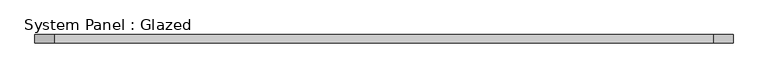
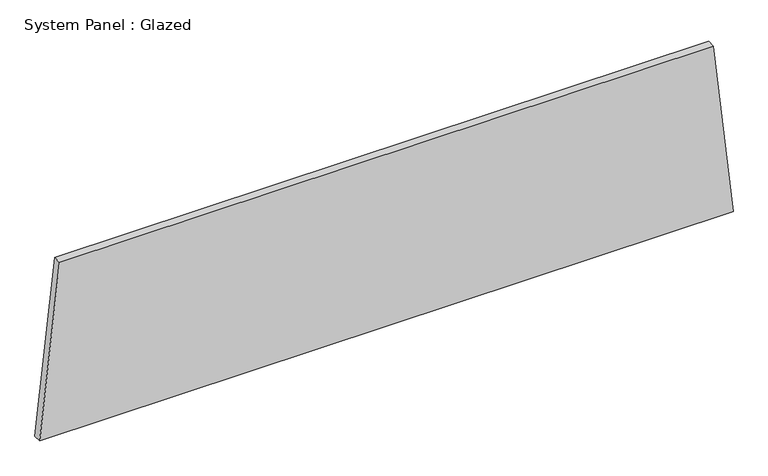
"""IFC4 building model written with IfcOpenShell, lengths in millimetres: plate geometry, System Panel : Glazed."""

from ifc_helpers import new_model, si_unit, frame, origin, place, context, project, spatial, polyline, outline, extrude, source, transform, mapped, element, save


def system_panel_glazed_8ac96967(model_context):
    return source(origin(), model_context, "Body", "SweptSolid", [
        extrude(outline(polyline([(0.0, -1081.9360538), (0.0, 1081.9360538), (567.915181, 1020.0729586), (567.915181, -1020.0729586), (0.0, -1081.9360538)])), frame((0.0, 19.05, 0.0), z_axis=(0.0, 1.0, 0.0), x_axis=(0.0, 0.0, 1.0)), (0.0, 0.0, 1.0), 25.4),
    ])


if __name__ == "__main__":
    model = new_model("IFC4")
    model_context = context("Model", 3, world=origin())
    ifc_project = project(units=[si_unit("LENGTHUNIT", "METRE", prefix="MILLI")], contexts=[model_context])
    site = spatial("IfcSite", under=ifc_project)
    building = spatial("IfcBuilding", under=site)
    placement = place(None, origin())
    system_panel_glazed_shape = system_panel_glazed_8ac96967(model_context)
    element("IfcPlate", 1, ObjectType="System Panel : Glazed", at=placement, inside=building, context=model_context, shape_type="MappedRepresentation", body=[
        mapped(system_panel_glazed_shape, transform((0.0, 0.0, 0.0), x_axis=(1.0, 0.0, 0.0), y_axis=(0.0, 1.0, 0.0), z_axis=(0.0, 0.0, 1.0))),
    ])
    save(model, "model.ifc")
